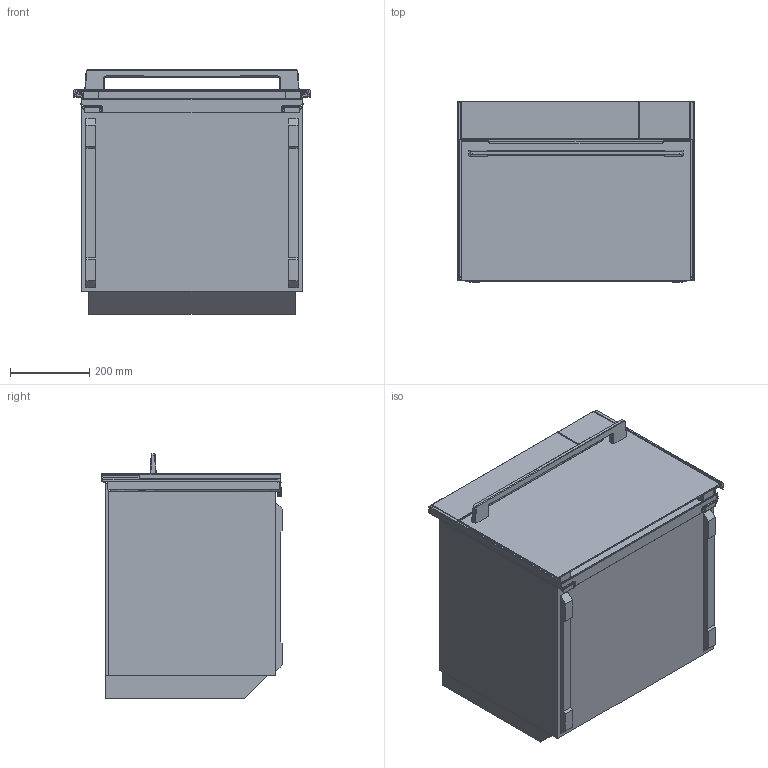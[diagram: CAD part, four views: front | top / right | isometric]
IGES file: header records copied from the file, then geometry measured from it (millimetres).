
Start section: SolidWorks IGES file using analytic representation for surfaces
Global section: file name: E:\3D za kuhinjaše\3D za kuhinjaše-ASKO\507874_OCS8478G\507874_OCS8478G\507874_OCS8478G.IGS; native system: SolidWorks 2016; preprocessor: SolidWorks 2016; author: kristijan.lamesic; date: 170914.125647; units: millimetre
Bounding box: 597 x 454.9 x 616.75 mm (x, y, z)
Surface area: 3077430.7 mm2 (no closed solid volume)
Topology: 0 solids, 0 shells, 590 faces, 4659 edges, 4653 vertices
Faces by surface type: bspline 383, revolution 207
